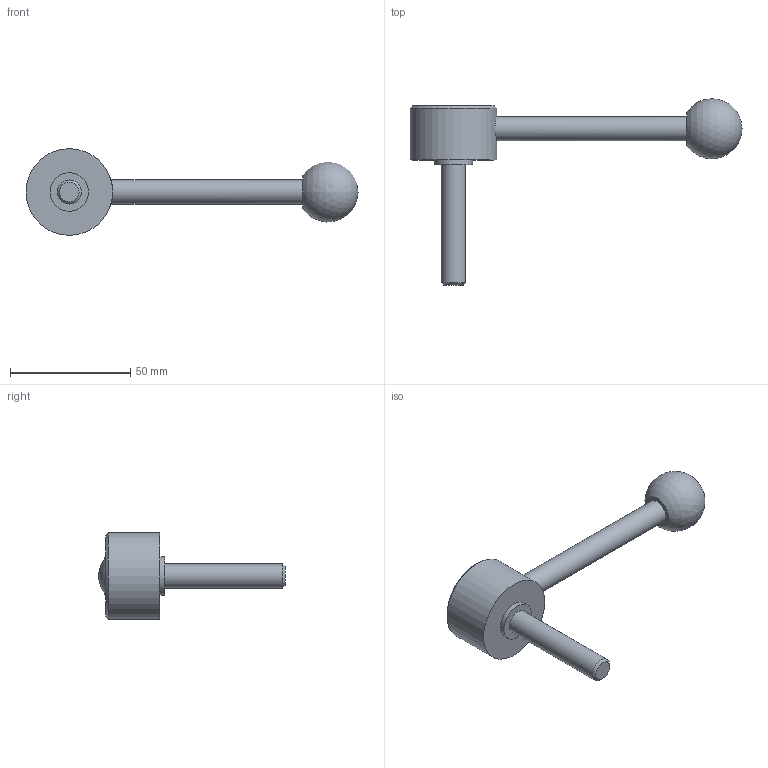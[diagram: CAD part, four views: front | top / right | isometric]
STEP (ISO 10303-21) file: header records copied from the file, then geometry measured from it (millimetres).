
FILE_DESCRIPTION( ( 'STEP AP203' ), '1' );
FILE_NAME( 'C:/Temp/Ganter_Step_05_03_2020/data/2_1/gn_125/gn_125_ms/gn_125_ms_d/Flat Adjustable Lever GN 125-36-M10-50-D.stp', '2020-03-05T11:00:48', ( 'License CC BY-ND 4.0' ), ( 'CADENAS' ), ' ', 'PARTsolutions', ' ' );
FILE_SCHEMA( ( 'CONFIG_CONTROL_DESIGN' ) );
Length unit declared in the file: millimetre
Products named in the file (1): _Flat Adjustable Lever GN 125-36-M10-50-D
Bounding box: 138 x 77.38 x 36 mm (x, y, z)
Volume: 41280.7 mm3; surface area: 10472.5 mm2
Topology: 1 solids, 1 shells, 14 faces, 23 edges, 15 vertices
Faces by surface type: plane 6, cylinder 5, cone 2, sphere 1
Full cylindrical faces by diameter (mm): 10 x2, 16 x1, 26 x1, 36 x1
Entity records: 392 total; most frequent: CARTESIAN_POINT 115, DIRECTION 54, AXIS2_PLACEMENT_3D 27, EDGE_LOOP 26, ORIENTED_EDGE 26, FACE_OUTER_BOUND 19, ADVANCED_FACE 14, VERTEX_POINT 14
